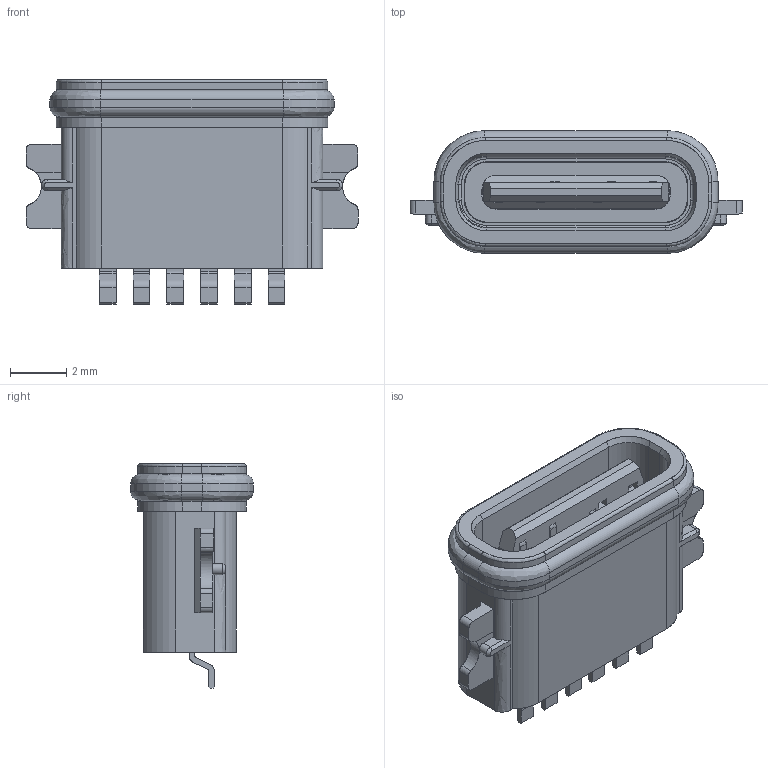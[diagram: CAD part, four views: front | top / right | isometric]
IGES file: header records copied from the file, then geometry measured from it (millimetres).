
Start section: SolidWorks IGES file using analytic representation for surfaces
Global section: file name: Z:\规格书系列\A品赞TYPE C\母座系列\GT-USB-7008\GT-USB-7008A\GT-USB-7008A.IGS; native system: SolidWorks 2021; preprocessor: SolidWorks 2021; author: Lenovo; date: 221227.164133; units: millimetre
Bounding box: 11.8 x 4.36 x 7.99 mm (x, y, z)
Surface area: 577.2 mm2 (no closed solid volume)
Topology: 0 solids, 0 shells, 739 faces, 4910 edges, 4900 vertices
Faces by surface type: bspline 548, revolution 191
